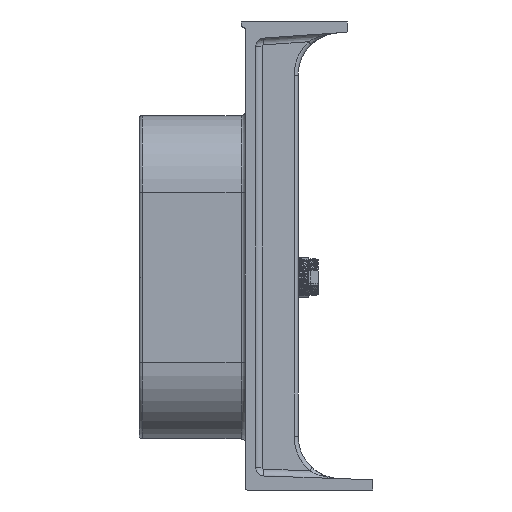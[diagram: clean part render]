
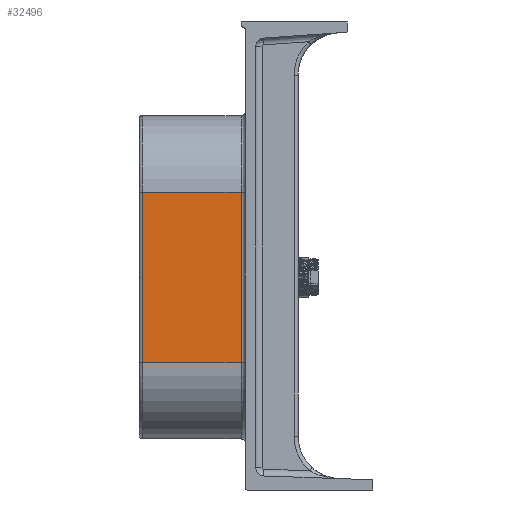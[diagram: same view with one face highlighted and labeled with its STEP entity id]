
A CAD part, left-side view. The second image highlights one B-rep face of the part: STEP entity #32496.
In plain terms, the highlighted planar face has unit normal (-1, 0, 0).
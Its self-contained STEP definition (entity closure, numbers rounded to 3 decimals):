
#959 = CARTESIAN_POINT ( 'NONE',  ( -360., 0., -100. ) ) ;
#5134 = CARTESIAN_POINT ( 'NONE',  ( -360., -4., 100. ) ) ;
#6192 = CARTESIAN_POINT ( 'NONE',  ( -360., -120., 100. ) ) ;
#6570 = AXIS2_PLACEMENT_3D ( 'NONE', #10520, #54851, #27247 ) ;
#7854 = CARTESIAN_POINT ( 'NONE',  ( -360., -4., -100. ) ) ;
#8447 = EDGE_LOOP ( 'NONE', ( #26552, #36743, #20315, #24264 ) ) ;
#9591 = LINE ( 'NONE', #59037, #31741 ) ;
#10520 = CARTESIAN_POINT ( 'NONE',  ( -360., 0., 100. ) ) ;
#12172 = VECTOR ( 'NONE', #13201, 1000. ) ;
#12552 = VERTEX_POINT ( 'NONE', #7854 ) ;
#13201 = DIRECTION ( 'NONE',  ( 0., 1., 0. ) ) ;
#19282 = VECTOR ( 'NONE', #62356, 1000. ) ;
#19575 = EDGE_CURVE ( 'NONE', #21314, #12552, #34020, .T. ) ;
#20315 = ORIENTED_EDGE ( 'NONE', *, *, #26307, .T. ) ;
#21314 = VERTEX_POINT ( 'NONE', #34063 ) ;
#21425 = FACE_OUTER_BOUND ( 'NONE', #8447, .T. ) ;
#24264 = ORIENTED_EDGE ( 'NONE', *, *, #25257, .T. ) ;
#25257 = EDGE_CURVE ( 'NONE', #28935, #12552, #26246, .T. ) ;
#25962 = DIRECTION ( 'NONE',  ( 0., 0., 1. ) ) ;
#26246 = LINE ( 'NONE', #5134, #70237 ) ;
#26307 = EDGE_CURVE ( 'NONE', #59936, #28935, #69521, .T. ) ;
#26552 = ORIENTED_EDGE ( 'NONE', *, *, #19575, .F. ) ;
#27247 = DIRECTION ( 'NONE',  ( 0., 0., 1. ) ) ;
#28935 = VERTEX_POINT ( 'NONE', #51556 ) ;
#31741 = VECTOR ( 'NONE', #25962, 1000. ) ;
#32496 = ADVANCED_FACE ( 'NONE', ( #21425 ), #43608, .T. ) ;
#34020 = LINE ( 'NONE', #959, #19282 ) ;
#34063 = CARTESIAN_POINT ( 'NONE',  ( -360., -120., -100. ) ) ;
#36743 = ORIENTED_EDGE ( 'NONE', *, *, #59532, .T. ) ;
#43608 = PLANE ( 'NONE',  #6570 ) ;
#48040 = DIRECTION ( 'NONE',  ( 0., 0., -1. ) ) ;
#51556 = CARTESIAN_POINT ( 'NONE',  ( -360., -4., 100. ) ) ;
#54851 = DIRECTION ( 'NONE',  ( -1., 0., 0. ) ) ;
#59037 = CARTESIAN_POINT ( 'NONE',  ( -360., -120., 100. ) ) ;
#59532 = EDGE_CURVE ( 'NONE', #21314, #59936, #9591, .T. ) ;
#59936 = VERTEX_POINT ( 'NONE', #6192 ) ;
#62356 = DIRECTION ( 'NONE',  ( 0., 1., 0. ) ) ;
#62974 = CARTESIAN_POINT ( 'NONE',  ( -360., 0., 100. ) ) ;
#69521 = LINE ( 'NONE', #62974, #12172 ) ;
#70237 = VECTOR ( 'NONE', #48040, 1000. ) ;
